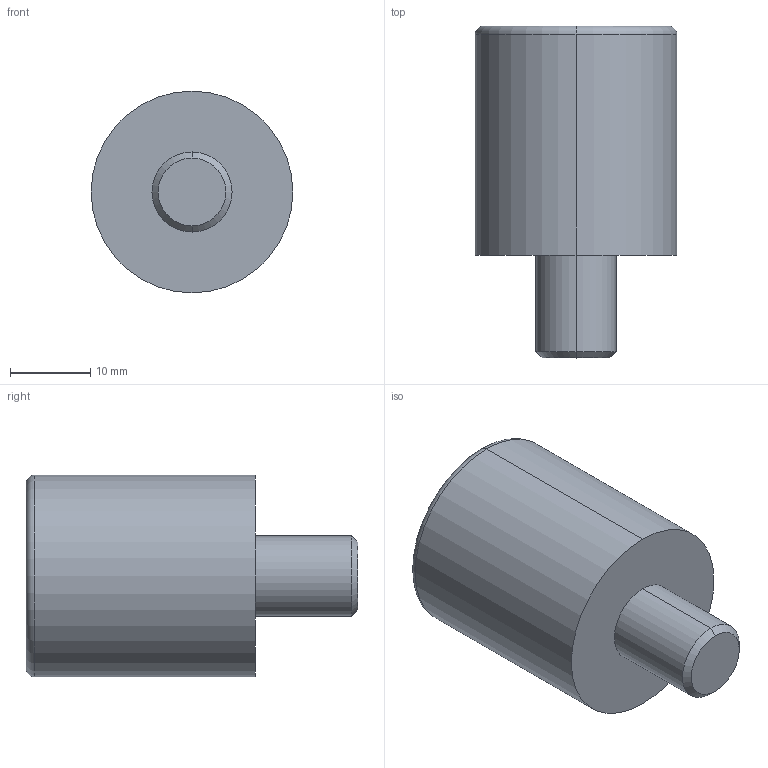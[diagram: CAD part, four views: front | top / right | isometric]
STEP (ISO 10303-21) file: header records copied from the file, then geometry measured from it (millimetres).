
FILE_DESCRIPTION (( 'STEP AP214' ), '1' );
FILE_NAME ('PE-25mm-16mm-S-A.STEP', '2018-10-02T15:18:31', ( '' ), ( '' ), 'SwSTEP 2.0', 'SolidWorks 2016', '' );
FILE_SCHEMA (( 'AUTOMOTIVE_DESIGN' ));
Length unit declared in the file: inch
Products named in the file (1): PE-25mm-16mm-S-A
Bounding box: 25.15 x 41.38 x 25.15 mm (x, y, z)
Volume: 14879.2 mm3; surface area: 3696.3 mm2
Topology: 1 solids, 1 shells, 23 faces, 48 edges, 30 vertices
Faces by surface type: plane 11, cylinder 6, torus 4, cone 2
Entity records: 656 total; most frequent: DIRECTION 118, CARTESIAN_POINT 102, ORIENTED_EDGE 96, EDGE_CURVE 48, AXIS2_PLACEMENT_3D 46, VERTEX_POINT 30, EDGE_LOOP 26, LINE 26
